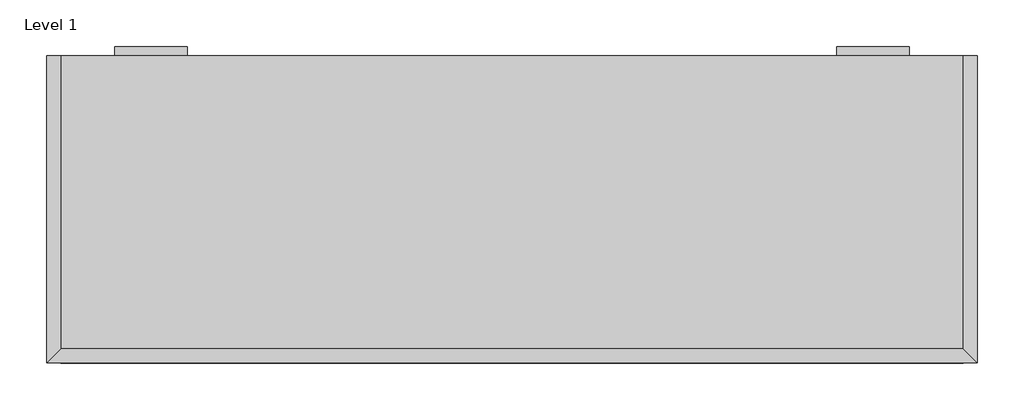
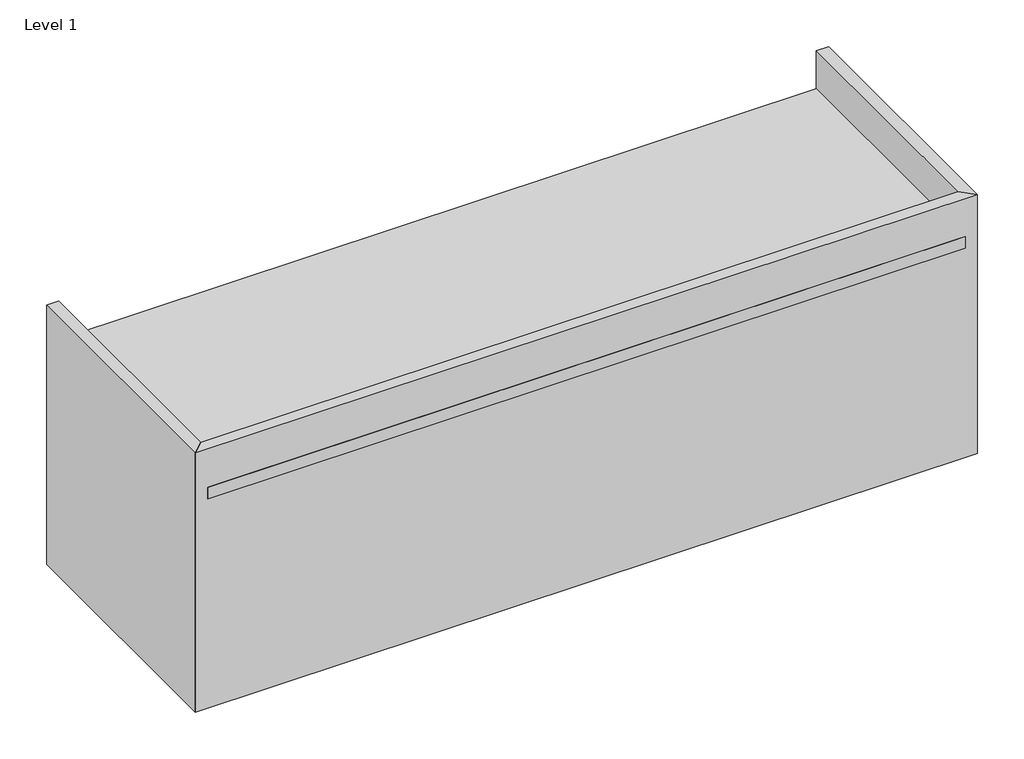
# One storey, incomplete: 5 proxies.
"""IFC4 building model written with IfcOpenShell, lengths in millimetres."""

from ifc_helpers import new_model, si_unit, origin, place, context, project, spatial, transform, mapped, element, save
from components import generic_models_16f8150b, generic_models_c95edcf3

model = new_model("IFC4")

# Units and contexts
model_context = context("Model", 3, world=origin())
ifc_project = project(units=[si_unit("LENGTHUNIT", "METRE", prefix="MILLI")], contexts=[model_context])

# Site, building, storey
site = spatial("IfcSite", under=ifc_project)
building = spatial("IfcBuilding", under=site)
storey = spatial("IfcBuildingStorey", under=building, Name="Level 1", Elevation=0.0)

# Proxies
placement = place(None, origin())
generic_models_shape = generic_models_16f8150b(model_context)
element("IfcBuildingElementProxy", 1, Name="HAFELE 102.12.004-7_5 INCH", ObjectType="HAFELE 102.12.004-7_5 INCH", at=placement, inside=storey, context=model_context, shape_type="MappedRepresentation", body=[
    mapped(generic_models_shape, transform((2326.3225, -28.575, 297.18), x_axis=(-1.0, 0.0, 0.0), y_axis=(0.0, 0.0, 1.0), z_axis=(0.0, 1.0, 0.0))),
])
element("IfcBuildingElementProxy", 2, Name="HAFELE 102.12.004-7_5 INCH", ObjectType="HAFELE 102.12.004-7_5 INCH", at=placement, inside=storey, context=model_context, shape_type="MappedRepresentation", body=[
    mapped(generic_models_shape, transform((2326.3225, -28.575, 640.87375), x_axis=(-1.0, 0.0, 0.0), y_axis=(0.0, 0.0, 1.0), z_axis=(0.0, 1.0, 0.0))),
])
element("IfcBuildingElementProxy", 3, Name="HAFELE 102.12.004-7_5 INCH", ObjectType="HAFELE 102.12.004-7_5 INCH", at=placement, inside=storey, context=model_context, shape_type="MappedRepresentation", body=[
    mapped(generic_models_shape, transform((2326.3225, -28.575, 469.026875), x_axis=(-1.0, 0.0, 0.0), y_axis=(0.0, 0.0, 1.0), z_axis=(0.0, 1.0, 0.0))),
])
element("IfcBuildingElementProxy", 4, Name="HAFELE 102.12.004-7_5 INCH", ObjectType="HAFELE 102.12.004-7_5 INCH", at=placement, inside=storey, context=model_context, shape_type="MappedRepresentation", body=[
    mapped(generic_models_shape, transform((414.9725, -28.575, 640.87375), x_axis=(-1.0, 0.0, 0.0), y_axis=(0.0, 0.0, 1.0), z_axis=(0.0, 1.0, 0.0))),
])
generic_models_2_shape = generic_models_c95edcf3(model_context)
element("IfcBuildingElementProxy", 5, Name="SALUTE^RECEPT_32x97 BASE-PARTS SOLID", ObjectType="SALUTE^RECEPT_32x97 BASE-PARTS SOLID", at=placement, inside=storey, context=model_context, shape_type="MappedRepresentation", body=[
    mapped(generic_models_2_shape, transform((0.0, -774.7, 0.0), x_axis=(1.0, 0.0, 0.0), y_axis=(0.0, 0.0, 1.0), z_axis=(0.0, -1.0, 0.0))),
])

save(model, "model.ifc")
